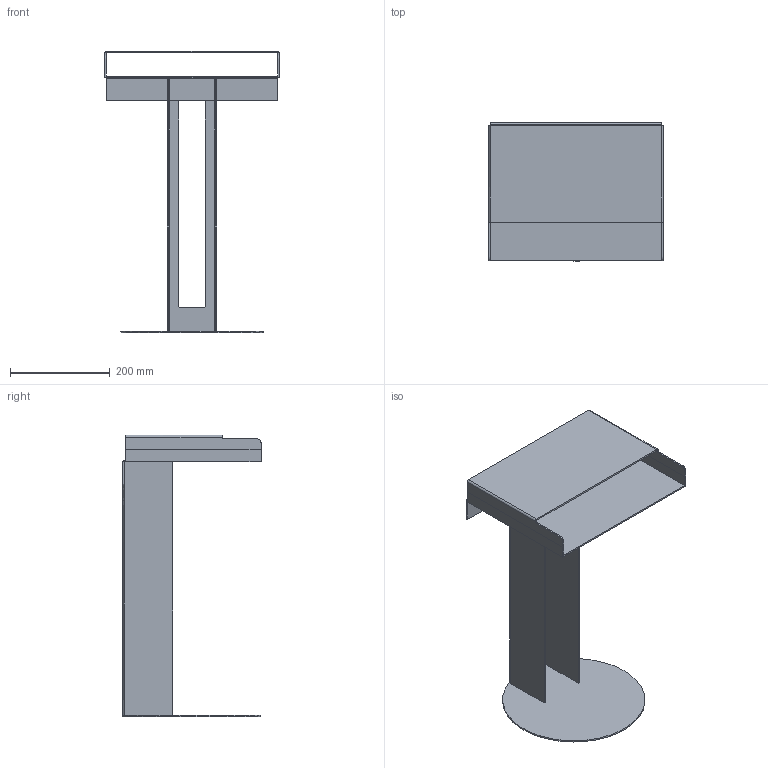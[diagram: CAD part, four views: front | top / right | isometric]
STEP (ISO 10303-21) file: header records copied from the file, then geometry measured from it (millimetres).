
FILE_DESCRIPTION(/* description */ (''),/* implementation_level */ '2;1');
FILE_NAME(/* name */ '2017-06-08-META-Technical-Construction-Drawing',/* time_stamp */ '2017-06-08T17:33:51+02:00',/* author */ (''),/* organization */ (''),/* preprocessor_version */ 'ST-DEVELOPER v15',/* originating_system */ '',/* authorisation */ '');
FILE_SCHEMA (('AUTOMOTIVE_DESIGN'));
Length unit declared in the file: millimetre
Products named in the file (1): Document
Bounding box: 350 x 277.5 x 566 mm (x, y, z)
Volume: 1119219.3 mm3; surface area: 798267.6 mm2
Topology: 3 solids, 4 shells, 76 faces, 193 edges, 122 vertices
Faces by surface type: plane 56, bspline 20
Entity records: 2080 total; most frequent: CARTESIAN_POINT 817, ORIENTED_EDGE 382, EDGE_CURVE 193, B_SPLINE_CURVE_WITH_KNOTS 131, VERTEX_POINT 122, ADVANCED_FACE 76, FACE_OUTER_BOUND 76, EDGE_LOOP 76
